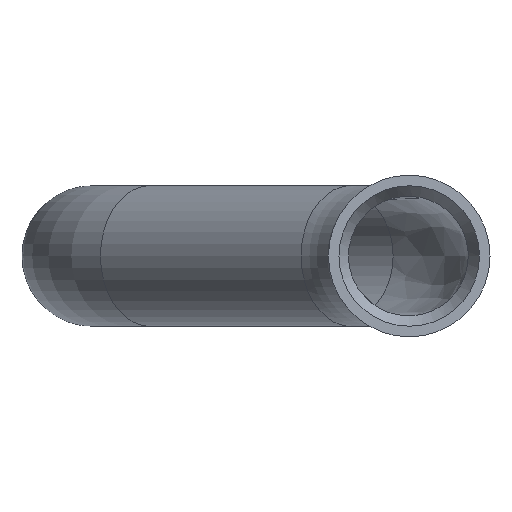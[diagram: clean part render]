
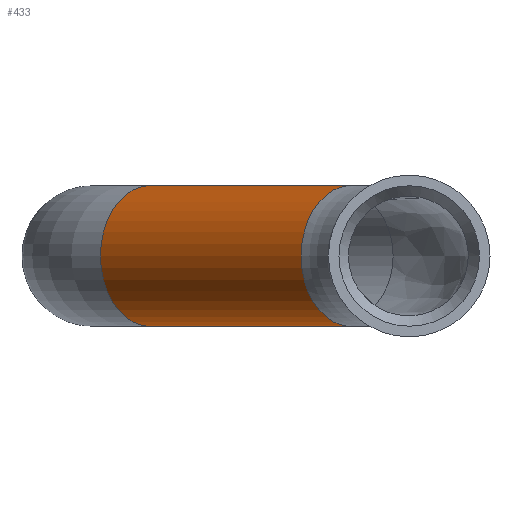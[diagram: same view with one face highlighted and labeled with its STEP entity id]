
A CAD part, left-side view. The second image highlights one B-rep face of the part: STEP entity #433.
In plain terms, the highlighted cylindrical face has radius 6 mm (diameter 12 mm), a full revolution.
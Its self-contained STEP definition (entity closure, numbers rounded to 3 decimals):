
#125=CARTESIAN_POINT('',(12.021,-12.021,-6.));
#126=VERTEX_POINT('',#125);
#127=CARTESIAN_POINT('',(12.021,-12.021,0.0));
#128=DIRECTION('',(-0.707,-0.707,0.0));
#129=DIRECTION('',(0.707,-0.707,0.0));
#130=AXIS2_PLACEMENT_3D('',#127,#128,#129);
#131=CIRCLE('',#130,6.);
#132=EDGE_CURVE('',#126,#126,#131,.T.);
#241=CARTESIAN_POINT('',(33.405,0.878,0.0));
#242=VERTEX_POINT('',#241);
#243=CARTESIAN_POINT('',(29.162,5.121,0.0));
#244=DIRECTION('',(-0.707,-0.707,0.0));
#245=DIRECTION('',(0.707,-0.707,0.0));
#246=AXIS2_PLACEMENT_3D('',#243,#244,#245);
#247=CIRCLE('',#246,6.);
#248=EDGE_CURVE('',#242,#242,#247,.T.);
#422=CARTESIAN_POINT('',(12.021,-12.021,0.0));
#423=DIRECTION('',(0.707,0.707,0.0));
#424=DIRECTION('',(0.707,-0.707,0.0));
#425=AXIS2_PLACEMENT_3D('',#422,#423,#424);
#426=CYLINDRICAL_SURFACE('',#425,6.);
#427=ORIENTED_EDGE('',*,*,#132,.F.);
#428=EDGE_LOOP('',(#427));
#429=FACE_OUTER_BOUND('',#428,.T.);
#430=ORIENTED_EDGE('',*,*,#248,.T.);
#431=EDGE_LOOP('',(#430));
#432=FACE_BOUND('',#431,.T.);
#433=ADVANCED_FACE('',(#429,#432),#426,.T.);
